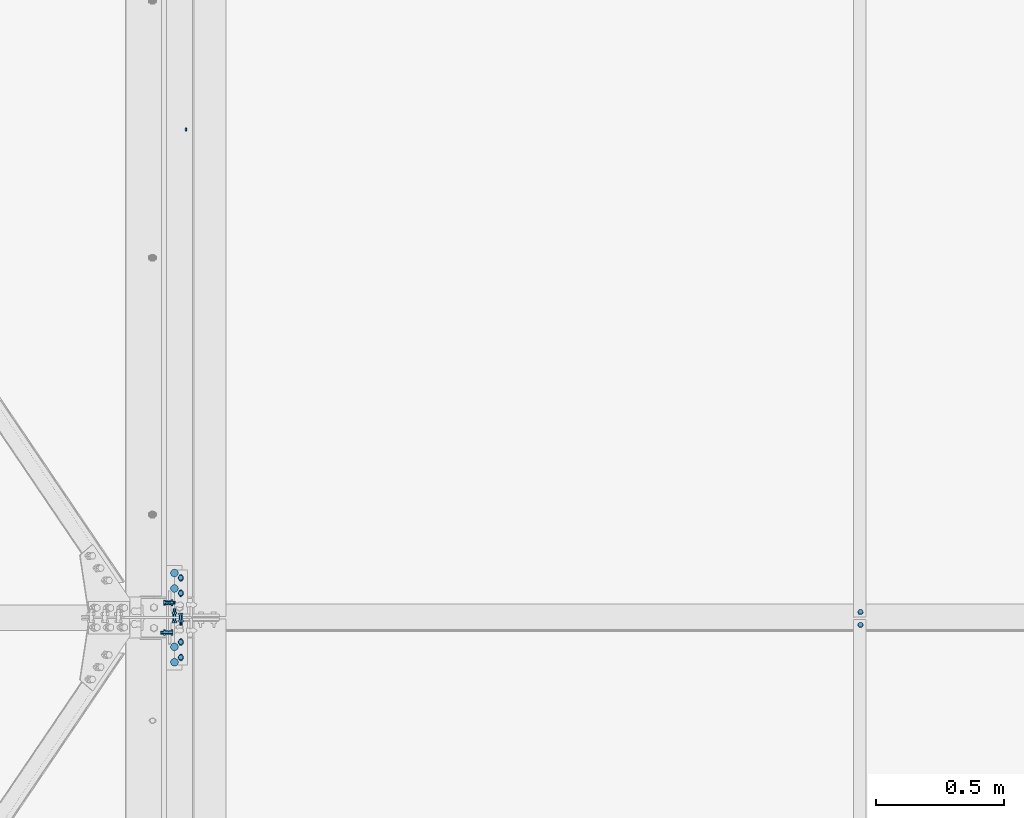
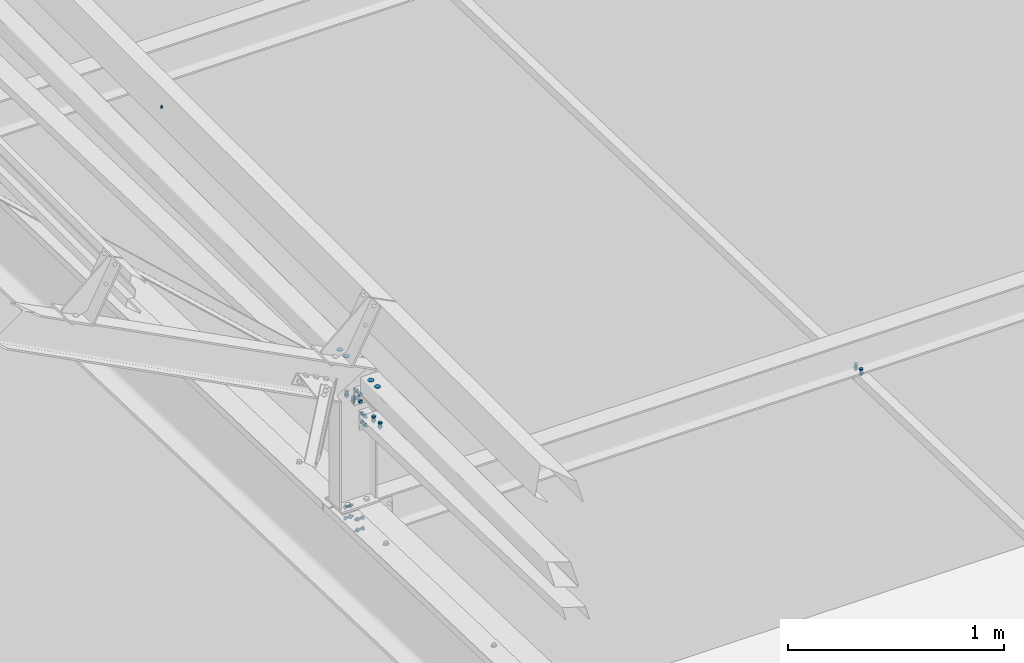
# One storey, part 292 of 362: 11 mechanical fasteners.
"""IFC2X3 building model written with IfcOpenShell, lengths in millimetres."""

import ifcopenshell
import ifcopenshell.guid

model = None  # the IFC model being written
_history = None  # IfcOwnerHistory: only IFC2X3 demands one
_inside = {}  # id of a spatial element -> (the spatial element, [elements in it])
_under = {}  # id of a project, library or spatial element -> (it, [spatial elements below it])
_declared = {}  # id of a project -> (the project, [libraries it declares])
_typed = {}  # id of a type object -> (the type object, [elements of that type])
_made_of = {}  # id of a material, layer set ... -> (it, [elements and type objects made of it])


def new_model(schema):
    """Start an empty IFC model of exactly this schema.

    Asked for "IFC4X3", IfcOpenShell would pick the latest addendum, in which some entities
    have other attributes; the version numbers below select the first issue.
    IFC2X3 requires an IfcOwnerHistory on every rooted entity: one is made here for all.
    """
    global model, _history
    if schema == "IFC4X3":
        model = ifcopenshell.file(schema_version=(4, 3, 0, 0))
    else:
        model = ifcopenshell.file(schema=schema)
    _inside.clear()
    _under.clear()
    _declared.clear()
    _typed.clear()
    _made_of.clear()
    _history = None
    if model.schema == "IFC2X3":
        org = make("IfcOrganization", Name="unknown")
        user = make(
            "IfcPersonAndOrganization",
            ThePerson=make("IfcPerson", FamilyName="unknown"),
            TheOrganization=org,
        )
        app = make(
            "IfcApplication",
            ApplicationDeveloper=org,
            Version="unknown",
            ApplicationFullName="unknown",
            ApplicationIdentifier="unknown",
        )
        _history = make(
            "IfcOwnerHistory",
            OwningUser=user,
            OwningApplication=app,
            ChangeAction="ADDED",
            CreationDate=0,
        )
    return model


def make(cls, **values):
    """One entity of the class cls with the attributes given. An attribute that is None is left unset."""
    return model.create_entity(
        cls, **{name: value for name, value in values.items() if value is not None}
    )


def rooted(cls, **values):
    """An entity with a GlobalId (a new one), such as an element, a storey or a relation."""
    return make(cls, GlobalId=ifcopenshell.guid.new(), OwnerHistory=_history, **values)


def si_unit(unit_type, name, prefix=None):
    """IfcSIUnit, for example si_unit("LENGTHUNIT", "METRE", prefix="MILLI")."""
    return make("IfcSIUnit", UnitType=unit_type, Prefix=prefix, Name=name)


def assignment(units):
    """IfcUnitAssignment: the units of a project."""
    return None if units is None else make("IfcUnitAssignment", Units=units)


def point(xyz):
    """IfcCartesianPoint."""
    return None if xyz is None else make("IfcCartesianPoint", Coordinates=xyz)


def direction(xyz):
    """IfcDirection."""
    return None if xyz is None else make("IfcDirection", DirectionRatios=xyz)


def frame(location, z_axis=None, x_axis=None):
    """IfcAxis2Placement3D, a coordinate frame: its origin and axes. An axis left out is left unset."""
    return make(
        "IfcAxis2Placement3D",
        Location=point(location),
        Axis=direction(z_axis),
        RefDirection=direction(x_axis),
    )


def frame_2d(location, x_axis=None):
    """IfcAxis2Placement2D, a coordinate frame in the plane: its origin and x axis."""
    return make(
        "IfcAxis2Placement2D", Location=point(location), RefDirection=direction(x_axis)
    )


def origin_with_axes():
    """The frame at (0, 0, 0) with the z axis (0, 0, 1) and the x axis (1, 0, 0) written out."""
    return frame((0.0, 0.0, 0.0), z_axis=(0.0, 0.0, 1.0), x_axis=(1.0, 0.0, 0.0))


def origin_2d_with_axis():
    """The frame at (0, 0) in the plane with the x axis (1, 0) written out."""
    return frame_2d((0.0, 0.0), x_axis=(1.0, 0.0))


def place(relative_to, where):
    """IfcLocalPlacement: puts the frame where relative to a parent placement (None: the world)."""
    return make(
        "IfcLocalPlacement", PlacementRelTo=relative_to, RelativePlacement=where
    )


def context(
    kind, dimensions, precision=None, world=None, true_north=None, identifier=None
):
    """IfcGeometricRepresentationContext, for example the 3D "Model" context."""
    return make(
        "IfcGeometricRepresentationContext",
        ContextIdentifier=identifier,
        ContextType=kind,
        CoordinateSpaceDimension=dimensions,
        Precision=precision,
        WorldCoordinateSystem=world,
        TrueNorth=true_north,
    )


def subcontext(parent, identifier, kind, view, scale=None):
    """IfcGeometricRepresentationSubContext, for example "Body" below "Model"."""
    return make(
        "IfcGeometricRepresentationSubContext",
        ContextIdentifier=identifier,
        ContextType=kind,
        ParentContext=parent,
        TargetScale=scale,
        TargetView=view,
    )


def project(units=None, contexts=None):
    """IfcProject with its units and contexts."""
    return rooted(
        "IfcProject",
        Name="project",
        RepresentationContexts=contexts,
        UnitsInContext=assignment(units),
    )


def spatial(cls, under=None, at=None, **own):
    """A site, building, storey or space (cls), placed at a placement, below another one or the project."""
    s = rooted(cls, ObjectPlacement=at, **own)
    if under is not None:
        _under.setdefault(under.id(), (under, []))[1].append(s)
    return s


def polyline(points):
    """IfcPolyline through the points."""
    return make("IfcPolyline", Points=[point(p) for p in points])


def circle_curve(where, radius):
    """IfcCircle in the frame where."""
    return make("IfcCircle", Position=where, Radius=radius)


def parameter(value):
    """IfcParameterValue: where a trimmed curve begins or ends, as a parameter of its basis curve."""
    return model.create_entity("IfcParameterValue", value)


def trimmed(basis, trim1, trim2, sense, master):
    """IfcTrimmedCurve: the piece of a basis curve between two trims."""
    return make(
        "IfcTrimmedCurve",
        BasisCurve=basis,
        Trim1=trim1,
        Trim2=trim2,
        SenseAgreement=sense,
        MasterRepresentation=master,
    )


def segment(curve, same_sense, transition):
    """IfcCompositeCurveSegment."""
    return make(
        "IfcCompositeCurveSegment",
        Transition=transition,
        SameSense=same_sense,
        ParentCurve=curve,
    )


def composite_curve(segments, self_intersect=None):
    """IfcCompositeCurve: segments joined end to end."""
    return make("IfcCompositeCurve", Segments=segments, SelfIntersect=self_intersect)


def profile(cls, at=None, kind="AREA", **sizes):
    """A parametric profile (cls). Its sizes go by their IFC names, for example OverallWidth=200.0."""
    return make(cls, ProfileType=kind, Position=at, **sizes)


def circle(**sizes):
    """IfcCircleProfileDef."""
    return profile("IfcCircleProfileDef", **sizes)


def outline(outer, holes=None, kind="AREA"):
    """IfcArbitraryClosedProfileDef: a profile drawn as a closed curve; with holes, ...WithVoids."""
    if holes is None:
        return make("IfcArbitraryClosedProfileDef", ProfileType=kind, OuterCurve=outer)
    return make(
        "IfcArbitraryProfileDefWithVoids",
        ProfileType=kind,
        OuterCurve=outer,
        InnerCurves=holes,
    )


def extrude(swept, where, along, depth):
    """IfcExtrudedAreaSolid: the profile swept, set in the frame where, extruded along a direction by depth."""
    return make(
        "IfcExtrudedAreaSolid",
        SweptArea=swept,
        Position=where,
        ExtrudedDirection=direction(along),
        Depth=depth,
    )


def shape(context_of_items, identifier, shape_type, items):
    """IfcShapeRepresentation: the items that make up one representation, for example the "Body"."""
    return make(
        "IfcShapeRepresentation",
        ContextOfItems=context_of_items,
        RepresentationIdentifier=identifier,
        RepresentationType=shape_type,
        Items=items,
    )


def source(mapping_origin, context_of_items, identifier, shape_type, items):
    """IfcRepresentationMap: a shape defined once, which mapped items show again and again."""
    return make(
        "IfcRepresentationMap",
        MappingOrigin=mapping_origin,
        MappedRepresentation=shape(context_of_items, identifier, shape_type, items),
    )


def transform(
    local_origin,
    x_axis=None,
    y_axis=None,
    z_axis=None,
    scale=None,
    scale2=None,
    scale3=None,
    uniform=True,
):
    """IfcCartesianTransformationOperator3D, or its non-uniform kind. x_axis, y_axis, z_axis: its Axis1, 2, 3."""
    if uniform:
        return make(
            "IfcCartesianTransformationOperator3D",
            Axis1=direction(x_axis),
            Axis2=direction(y_axis),
            LocalOrigin=point(local_origin),
            Scale=scale,
            Axis3=direction(z_axis),
        )
    return make(
        "IfcCartesianTransformationOperator3DnonUniform",
        Axis1=direction(x_axis),
        Axis2=direction(y_axis),
        LocalOrigin=point(local_origin),
        Scale=scale,
        Axis3=direction(z_axis),
        Scale2=scale2,
        Scale3=scale3,
    )


def mapped(mapping_source, mapping_target):
    """IfcMappedItem: shows the shape of a source again, moved by a transform."""
    return make(
        "IfcMappedItem", MappingSource=mapping_source, MappingTarget=mapping_target
    )


def material(Name=None, Category=None):
    """IfcMaterial."""
    return make("IfcMaterial", Name=Name, Category=Category)


def made_of(thing, what):
    """Note that an element or type object is made of a material, layer set ...; save() writes the relation."""
    if what is not None:
        _made_of.setdefault(what.id(), (what, []))[1].append(thing)
    return thing


def type_object(cls, material=None, **own):
    """A type object (cls), such as IfcWallType, which elements share."""
    return made_of(rooted(cls, **own), material)


def element(
    cls,
    number,
    at=None,
    inside=None,
    cuts=None,
    type_object=None,
    material=None,
    context=None,
    identifier="Body",
    shape_type=None,
    held_by="IfcProductDefinitionShape",
    body=None,
    shapes=None,
    **own,
):
    """One element of the class cls, such as IfcWall. Its Tag is "e" and its number.

    at: its placement. inside: the storey or other place that contains it. cuts: it is an
    opening in that element (IfcRelVoidsElement). A single representation is given by context,
    identifier, shape_type and body (its items); several are given by shapes. held_by: the class
    of the entity that holds the representations. save() writes the other relations.
    """
    e = rooted(cls, Tag="e%d" % number, ObjectPlacement=at, **own)
    if body is not None:
        shapes = [shape(context, identifier, shape_type, body)]
    if shapes is not None:
        e.Representation = make(held_by, Representations=shapes)
    if inside is not None:
        _inside.setdefault(inside.id(), (inside, []))[1].append(e)
    if cuts is not None:
        rooted(
            "IfcRelVoidsElement", RelatingBuildingElement=cuts, RelatedOpeningElement=e
        )
    if type_object is not None:
        _typed.setdefault(type_object.id(), (type_object, []))[1].append(e)
    return made_of(e, material)


def aggregate(whole, parts):
    """IfcRelAggregates: a whole, such as a stair, and the parts it consists of."""
    return rooted("IfcRelAggregates", RelatingObject=whole, RelatedObjects=parts)


def save(model, path):
    """Write the relations noted so far, then the file.

    IfcRelAggregates (storeys below a building ...), IfcRelContainedInSpatialStructure (elements
    in a storey), IfcRelDefinesByType, IfcRelAssociatesMaterial and IfcRelDeclares: one each for
    every whole, place, type object, material and project.
    """
    for whole, parts in _under.values():
        aggregate(whole, parts)
    for where, things in _inside.values():
        rooted(
            "IfcRelContainedInSpatialStructure",
            RelatedElements=things,
            RelatingStructure=where,
        )
    for kind, things in _typed.values():
        rooted("IfcRelDefinesByType", RelatedObjects=things, RelatingType=kind)
    for what, things in _made_of.values():
        rooted("IfcRelAssociatesMaterial", RelatedObjects=things, RelatingMaterial=what)
    for by, libraries in _declared.values():
        rooted("IfcRelDeclares", RelatingContext=by, RelatedDefinitions=libraries)
    model.write(path)


model = new_model("IFC2X3")

# Units and contexts
model_context = context("Model", 3, precision=1e-05, world=origin_with_axes())
body_context = subcontext(model_context, "Body", "Model", "MODEL_VIEW")
ifc_project = project(units=[si_unit("LENGTHUNIT", "METRE", prefix="MILLI"), si_unit("AREAUNIT", "SQUARE_METRE"), si_unit("VOLUMEUNIT", "CUBIC_METRE"), si_unit("MASSUNIT", "GRAM", prefix="KILO"), si_unit("TIMEUNIT", "SECOND"), si_unit("PLANEANGLEUNIT", "RADIAN"), si_unit("SOLIDANGLEUNIT", "STERADIAN"), si_unit("THERMODYNAMICTEMPERATUREUNIT", "DEGREE_CELSIUS"), si_unit("LUMINOUSINTENSITYUNIT", "LUMEN")], contexts=[model_context])

# Site, building, storey
site_placement = place(None, origin_with_axes())
site = spatial("IfcSite", under=ifc_project, at=site_placement, Name="Undefined", CompositionType="ELEMENT")
building_placement = place(site_placement, origin_with_axes())
building = spatial("IfcBuilding", under=site, at=building_placement, Name="Undefined", CompositionType="ELEMENT")
storey_placement = place(building_placement, origin_with_axes())
storey = spatial("IfcBuildingStorey", under=building, at=storey_placement, Name="Undefined", CompositionType="ELEMENT", Elevation=0.0)

# Mechanical fasteners
ifc_material_1 = material(Name="6.8")
mechanical_fastener_type = type_object("IfcMechanicalFastenerType", Name="Bolt assembly")
shared_shape_1 = source(origin_with_axes(), body_context, "Body", "SweptSolid", [
    extrude(circle(Radius=7.0, at=origin_2d_with_axis()), frame((0.0, 0.0, 0.0), z_axis=(0.0, 1.0, 0.0), x_axis=(1.0, 0.0, 0.0)), (0.0, 0.0, 1.0), 3.1),
])
mechanical_fastener_1_placement = place(storey_placement, frame((28953.4915880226, 9500.00002040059, 8856.57208676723), z_axis=(0.0, -1.0, 0.0), x_axis=(-0.460093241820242, 0.0, -0.887870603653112)))
element("IfcMechanicalFastener", 1, at=mechanical_fastener_1_placement, inside=storey, type_object=mechanical_fastener_type, material=ifc_material_1, Name="Bolt assembly", NominalDiameter=12.0, NominalLength=3.0, context=body_context, shape_type="MappedRepresentation", body=[
    mapped(shared_shape_1, transform((0.0, 0.0, 0.0))),
])
shared_shape_2 = source(origin_with_axes(), body_context, "Body", "SweptSolid", [
    extrude(circle(Radius=15.0, at=origin_2d_with_axis()), frame((0.0, 0.0, 0.0), z_axis=(0.0, 1.0, 0.0), x_axis=(1.0, 0.0, 0.0)), (0.0, 0.0, 1.0), 4.1),
])
for number, where, z_axis, x_axis, name in (
    (2, (28910.0, 7773.5, 8550.0), (1.0, 0.0, 0.0), (0.0, -1.0, 0.0), "Bolt assembly"),
    (3, (28910.0, 7426.5, 8550.0), (-1.0, 0.0, 0.0), (0.0, 1.0, 0.0), "Bolt assembly"),
):
    element("IfcMechanicalFastener", number, at=place(storey_placement, frame(where, z_axis=z_axis, x_axis=x_axis)), inside=storey, type_object=mechanical_fastener_type, material=ifc_material_1, Name=name, NominalDiameter=30.0, NominalLength=4.0, context=body_context, shape_type="MappedRepresentation", body=[
        mapped(shared_shape_2, transform((0.0, 0.0, 0.0))),
        mapped(shared_shape_2, transform((60.0, 0.0, 0.0))),
    ])
ifc_material_2 = material(Name="8.8-SB-ZINGUE")
shared_shape_3 = source(origin_with_axes(), body_context, "Body", "SweptSolid", [
    extrude(circle(Radius=7.0, at=origin_2d_with_axis()), frame((0.0, -8.39750152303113, 0.0), z_axis=(0.0, 1.0, 0.0), x_axis=(1.0, 0.0, 0.0)), (0.0, 0.0, 1.0), 8.5),
    extrude(circle(Radius=7.0, at=origin_2d_with_axis()), frame((0.0, -0.100011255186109, 0.0), z_axis=(0.0, 1.0, 0.0), x_axis=(1.0, 0.0, 0.0)), (0.0, 0.0, 1.0), 5.1),
    extrude(outline(polyline([(10.39230484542, 0.0), (5.19615242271, 9.00000000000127), (-5.19615242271, 9.00000000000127), (-10.39230484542, 0.0), (-5.19615242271, -9.00000000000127), (5.19615242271, -9.00000000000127), (10.39230484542, 0.0)])), frame((0.0, -16.4175015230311, 0.0), z_axis=(0.0, 1.0, 0.0), x_axis=(1.0, 0.0, 0.0)), (0.0, 0.0, 1.0), 7.92),
    extrude(circle(Radius=6.0, at=origin_2d_with_axis()), frame((0.0, -8.49750152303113, 0.0), z_axis=(0.0, 1.0, 0.0), x_axis=(1.0, 0.0, 0.0)), (0.0, 0.0, 1.0), 30.0),
    extrude(outline(polyline([(11.5008173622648, 0.0), (5.7504086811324, 9.96000000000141), (-5.7504086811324, 9.96000000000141), (-11.5008173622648, 0.0), (-5.7504086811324, -9.96000000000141), (5.7504086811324, -9.96000000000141), (11.5008173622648, 0.0)])), frame((0.0, 5.0, 0.0), z_axis=(0.0, 1.0, 0.0), x_axis=(1.0, 0.0, 0.0)), (0.0, 0.0, 1.0), 7.92),
])
for number, where, z_axis, x_axis, name in (
    (4, (31580.0000126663, 7621.85063591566, 7610.37835678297), (0.0, -0.999506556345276, 0.031410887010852), (-1.0, 0.0, 0.0), "Bolt assembly"),
    (5, (31580.0000126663, 7571.8713229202, 7611.94904294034), (0.0, -0.999506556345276, 0.031410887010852), (-1.0, 0.0, 0.0), "Bolt assembly"),
):
    element("IfcMechanicalFastener", number, at=place(storey_placement, frame(where, z_axis=z_axis, x_axis=x_axis)), inside=storey, type_object=mechanical_fastener_type, material=ifc_material_2, Name=name, NominalDiameter=12.0, NominalLength=30.0, context=body_context, shape_type="MappedRepresentation", body=[
        mapped(shared_shape_3, transform((0.0, 0.0, 0.0))),
    ])
shared_shape_4 = source(origin_with_axes(), body_context, "Body", "SweptSolid", [
    extrude(circle(Radius=7.0, at=origin_2d_with_axis()), frame((0.0, -2.7999999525, 0.0), z_axis=(0.0, 1.0, 0.0), x_axis=(1.0, 0.0, 0.0)), (0.0, 0.0, 1.0), 5.6),
    extrude(circle(Radius=7.0, at=origin_2d_with_axis()), frame((0.0, -9.40000000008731, 0.0), z_axis=(0.0, 1.0, 0.0), x_axis=(1.0, 0.0, 0.0)), (0.0, 0.0, 1.0), 6.0),
    extrude(circle(Radius=7.0, at=origin_2d_with_axis()), frame((0.0, 3.40000111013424, 0.0), z_axis=(0.0, 1.0, 0.0), x_axis=(1.0, 0.0, 0.0)), (0.0, 0.0, 1.0), 6.1),
    extrude(outline(polyline([(10.39230484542, 0.0), (5.19615242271, 9.00000000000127), (-5.19615242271, 9.00000000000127), (-10.39230484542, 0.0), (-5.19615242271, -9.00000000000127), (5.19615242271, -9.00000000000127), (10.39230484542, 0.0)])), frame((0.0, -17.4200000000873, 0.0), z_axis=(0.0, 1.0, 0.0), x_axis=(1.0, 0.0, 0.0)), (0.0, 0.0, 1.0), 7.92),
    extrude(circle(Radius=6.0, at=origin_2d_with_axis()), frame((0.0, -9.50000000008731, 0.0), z_axis=(0.0, 1.0, 0.0), x_axis=(1.0, 0.0, 0.0)), (0.0, 0.0, 1.0), 40.0),
    extrude(outline(polyline([(11.5008173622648, 0.0), (5.7504086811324, 9.96000000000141), (-5.7504086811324, 9.96000000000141), (-11.5008173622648, 0.0), (-5.7504086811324, -9.96000000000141), (5.7504086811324, -9.96000000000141), (11.5008173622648, 0.0)])), frame((0.0, 9.50000815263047, 0.0), z_axis=(0.0, 1.0, 0.0), x_axis=(1.0, 0.0, 0.0)), (0.0, 0.0, 1.0), 7.92),
])
mechanical_fastener_2_placement = place(storey_placement, frame((28935.0000000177, 7600.0, 8227.43274813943), z_axis=(1.0, 0.0, 0.0), x_axis=(0.0, 0.0, 1.0)))
element("IfcMechanicalFastener", 6, at=mechanical_fastener_2_placement, inside=storey, type_object=mechanical_fastener_type, material=ifc_material_2, Name="Bolt assembly", NominalDiameter=12.0, NominalLength=40.0, context=body_context, shape_type="MappedRepresentation", body=[
    mapped(shared_shape_4, transform((0.0, 0.0, 0.0))),
    mapped(shared_shape_4, transform((49.9999999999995, 0.0, -3.63797880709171e-12))),
])
shared_shape_5 = source(origin_with_axes(), body_context, "Body", "SweptSolid", [
    extrude(circle(Radius=7.0, at=origin_2d_with_axis()), frame((0.0, -3.89999843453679, 0.0), z_axis=(0.0, 1.0, 0.0), x_axis=(1.0, 0.0, 0.0)), (0.0, 0.0, 1.0), 4.0),
    extrude(outline(composite_curve([segment(polyline([(-7.0, 7.0), (7.0, 7.0)]), True, "CONTINUOUS"), segment(trimmed(circle_curve(frame_2d((7.0, 0.0), x_axis=(0.0, 1.0)), 7.0), [parameter(0.0)], [parameter(3.14159265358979)], False, "PARAMETER"), True, "CONTINUOUS"), segment(polyline([(7.0, -7.0), (-7.0, -7.0)]), True, "CONTINUOUS"), segment(trimmed(circle_curve(frame_2d((-7.0, 0.0), x_axis=(0.0, -1.0)), 7.0), [parameter(0.0)], [parameter(3.14159265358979)], False, "PARAMETER"), True, "DISCONTINUOUS")], self_intersect=False)), frame((0.0, -0.100011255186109, 0.0), z_axis=(0.0, 1.0, 0.0), x_axis=(1.0, 0.0, 0.0)), (0.0, 0.0, 1.0), 6.1),
    extrude(outline(polyline([(10.39230484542, 0.0), (5.19615242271, 9.00000000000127), (-5.19615242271, 9.00000000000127), (-10.39230484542, 0.0), (-5.19615242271, -9.00000000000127), (5.19615242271, -9.00000000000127), (10.39230484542, 0.0)])), frame((0.0, -11.9199984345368, 0.0), z_axis=(0.0, 1.0, 0.0), x_axis=(1.0, 0.0, 0.0)), (0.0, 0.0, 1.0), 7.92),
    extrude(circle(Radius=6.0, at=origin_2d_with_axis()), frame((0.0, -3.99999923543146, 0.0), z_axis=(0.0, 1.0, 0.0), x_axis=(1.0, 0.0, 0.0)), (0.0, 0.0, 1.0), 30.0),
    extrude(circle(Radius=10.8, at=origin_2d_with_axis()), frame((0.0, 6.0, 0.0), z_axis=(0.0, 1.0, 0.0), x_axis=(1.0, 0.0, 0.0)), (0.0, 0.0, 1.0), 3.96),
    extrude(outline(polyline([(11.5008173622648, 0.0), (5.7504086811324, 9.96000000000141), (-5.7504086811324, 9.96000000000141), (-11.5008173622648, 0.0), (-5.7504086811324, -9.96000000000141), (5.7504086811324, -9.96000000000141), (11.5008173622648, 0.0)])), frame((0.0, 9.9600084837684, 0.0), z_axis=(0.0, 1.0, 0.0), x_axis=(1.0, 0.0, 0.0)), (0.0, 0.0, 1.0), 7.92),
])
mechanical_fastener_3_placement = place(storey_placement, frame((28935.0, 7754.95557192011, 8307.56250616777), z_axis=(1.0, 0.0, 0.0), x_axis=(0.0, -0.999506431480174, 0.0314148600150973)))
element("IfcMechanicalFastener", 7, at=mechanical_fastener_3_placement, inside=storey, type_object=mechanical_fastener_type, material=ifc_material_2, Name="Bolt assembly", NominalDiameter=12.0, NominalLength=30.0, context=body_context, shape_type="MappedRepresentation", body=[
    mapped(shared_shape_5, transform((0.0, 0.0, 0.0))),
    mapped(shared_shape_5, transform((60.0, 0.0, 0.0))),
])
shared_shape_6 = source(origin_with_axes(), body_context, "Body", "SweptSolid", [
    extrude(circle(Radius=7.0, at=origin_2d_with_axis()), frame((0.0, -3.89999843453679, 0.0), z_axis=(0.0, 1.0, 0.0), x_axis=(1.0, 0.0, 0.0)), (0.0, 0.0, 1.0), 4.0),
    extrude(outline(composite_curve([segment(polyline([(-7.0, 7.0), (7.0, 7.0)]), True, "CONTINUOUS"), segment(trimmed(circle_curve(frame_2d((7.0, 0.0), x_axis=(0.0, 1.0)), 7.0), [parameter(0.0)], [parameter(3.14159265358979)], False, "PARAMETER"), True, "CONTINUOUS"), segment(polyline([(7.0, -7.0), (-7.0, -7.0)]), True, "CONTINUOUS"), segment(trimmed(circle_curve(frame_2d((-7.0, 0.0), x_axis=(0.0, -1.0)), 7.0), [parameter(0.0)], [parameter(3.14159265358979)], False, "PARAMETER"), True, "DISCONTINUOUS")], self_intersect=False)), frame((0.0, -0.100011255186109, 0.0), z_axis=(0.0, 1.0, 0.0), x_axis=(1.0, 0.0, 0.0)), (0.0, 0.0, 1.0), 6.1),
    extrude(outline(polyline([(10.39230484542, 0.0), (5.19615242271, 9.00000000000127), (-5.19615242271, 9.00000000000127), (-10.39230484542, 0.0), (-5.19615242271, -9.00000000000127), (5.19615242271, -9.00000000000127), (10.39230484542, 0.0)])), frame((0.0, -11.9199984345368, 0.0), z_axis=(0.0, 1.0, 0.0), x_axis=(1.0, 0.0, 0.0)), (0.0, 0.0, 1.0), 7.92),
    extrude(circle(Radius=6.0, at=origin_2d_with_axis()), frame((0.0, -3.99999923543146, 0.0), z_axis=(0.0, 1.0, 0.0), x_axis=(1.0, 0.0, 0.0)), (0.0, 0.0, 1.0), 30.0),
    extrude(circle(Radius=10.8, at=origin_2d_with_axis()), frame((0.0, 6.0, 0.0), z_axis=(0.0, 1.0, 0.0), x_axis=(1.0, 0.0, 0.0)), (0.0, 0.0, 1.0), 3.96),
    extrude(outline(polyline([(11.5008173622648, 0.0), (5.7504086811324, 9.96000000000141), (-5.7504086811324, 9.96000000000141), (-11.5008173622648, 0.0), (-5.7504086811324, -9.96000000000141), (5.7504086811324, -9.96000000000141), (11.5008173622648, 0.0)])), frame((0.0, 9.9600084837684, 0.0), z_axis=(0.0, 1.0, 0.0), x_axis=(1.0, 0.0, 0.0)), (0.0, 0.0, 1.0), 7.92),
])
mechanical_fastener_4_placement = place(storey_placement, frame((28935.0, 7445.0444201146, 8317.30299256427), z_axis=(-1.0, 0.0, 0.0), x_axis=(0.0, 0.99950644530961, -0.0314144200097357)))
element("IfcMechanicalFastener", 8, at=mechanical_fastener_4_placement, inside=storey, type_object=mechanical_fastener_type, material=ifc_material_2, Name="Bolt assembly", NominalDiameter=12.0, NominalLength=30.0, context=body_context, shape_type="MappedRepresentation", body=[
    mapped(shared_shape_6, transform((0.0, 0.0, 0.0))),
    mapped(shared_shape_6, transform((60.0, 0.0, 0.0))),
])
shared_shape_7 = source(origin_with_axes(), body_context, "Body", "SweptSolid", [
    extrude(circle(Radius=7.0, at=origin_2d_with_axis()), frame((0.0, -2.80010483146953, 0.0), z_axis=(0.0, 1.0, 0.0), x_axis=(1.0, 0.0, 0.0)), (0.0, 0.0, 1.0), 5.6),
    extrude(circle(Radius=7.0, at=origin_2d_with_axis()), frame((0.0, 3.3998951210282, 0.0), z_axis=(0.0, 1.0, 0.0), x_axis=(1.0, 0.0, 0.0)), (0.0, 0.0, 1.0), 10.1),
    extrude(circle(Radius=7.0, at=origin_2d_with_axis()), frame((0.0, -13.4001048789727, 0.0), z_axis=(0.0, 1.0, 0.0), x_axis=(1.0, 0.0, 0.0)), (0.0, 0.0, 1.0), 10.0),
    extrude(outline(polyline([(10.39230484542, 0.0), (5.19615242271, 9.00000000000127), (-5.19615242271, 9.00000000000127), (-10.39230484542, 0.0), (-5.19615242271, -9.00000000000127), (5.19615242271, -9.00000000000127), (10.39230484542, 0.0)])), frame((0.0, -21.4201048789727, 0.0), z_axis=(0.0, 1.0, 0.0), x_axis=(1.0, 0.0, 0.0)), (0.0, 0.0, 1.0), 7.92),
    extrude(circle(Radius=6.0, at=origin_2d_with_axis()), frame((0.0, -13.5000574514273, 0.0), z_axis=(0.0, 1.0, 0.0), x_axis=(1.0, 0.0, 0.0)), (0.0, 0.0, 1.0), 50.0),
    extrude(outline(polyline([(11.5008173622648, 0.0), (5.7504086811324, 9.96000000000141), (-5.7504086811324, 9.96000000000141), (-11.5008173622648, 0.0), (-5.7504086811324, -9.96000000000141), (5.7504086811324, -9.96000000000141), (11.5008173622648, 0.0)])), frame((0.0, 13.4998951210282, 0.0), z_axis=(0.0, 1.0, 0.0), x_axis=(1.0, 0.0, 0.0)), (0.0, 0.0, 1.0), 7.92),
])
mechanical_fastener_5_placement = place(storey_placement, frame((28910.0, 7600.00010487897, 8370.0), z_axis=(-1.0, 0.0, 0.0), x_axis=(0.0, 0.0, 1.0)))
element("IfcMechanicalFastener", 9, at=mechanical_fastener_5_placement, inside=storey, type_object=mechanical_fastener_type, material=ifc_material_2, Name="Bolt assembly", NominalDiameter=12.0, NominalLength=50.0, context=body_context, shape_type="MappedRepresentation", body=[
    mapped(shared_shape_7, transform((0.0, 0.0, 0.0))),
    mapped(shared_shape_7, transform((40.0, 0.0, 0.0))),
])
shared_shape_8 = source(origin_with_axes(), body_context, "Body", "SweptSolid", [
    extrude(circle(Radius=7.0, at=origin_2d_with_axis()), frame((0.0, -5.45000018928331, 0.0), z_axis=(0.0, 1.0, 0.0), x_axis=(1.0, 0.0, 0.0)), (0.0, 0.0, 1.0), 11.1),
    extrude(circle(Radius=7.0, at=origin_2d_with_axis()), frame((0.0, 5.90002706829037, 0.0), z_axis=(0.0, 1.0, 0.0), x_axis=(1.0, 0.0, 0.0)), (0.0, 0.0, 1.0), 10.1),
    extrude(outline(polyline([(10.39230484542, 0.0), (5.19615242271, 9.00000000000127), (-5.19615242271, 9.00000000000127), (-10.39230484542, 0.0), (-5.19615242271, -9.00000000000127), (5.19615242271, -9.00000000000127), (10.39230484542, 0.0)])), frame((0.0, -13.4700001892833, 0.0), z_axis=(0.0, 1.0, 0.0), x_axis=(1.0, 0.0, 0.0)), (0.0, 0.0, 1.0), 7.92),
    extrude(circle(Radius=6.0, at=origin_2d_with_axis()), frame((0.0, -5.55000018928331, 0.0), z_axis=(0.0, 1.0, 0.0), x_axis=(1.0, 0.0, 0.0)), (0.0, 0.0, 1.0), 40.0),
    extrude(outline(polyline([(11.5008173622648, 0.0), (5.7504086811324, 9.96000000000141), (-5.7504086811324, 9.96000000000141), (-11.5008173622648, 0.0), (-5.7504086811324, -9.96000000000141), (5.7504086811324, -9.96000000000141), (11.5008173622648, 0.0)])), frame((0.0, 15.9999999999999, 0.0), z_axis=(0.0, 1.0, 0.0), x_axis=(1.0, 0.0, 0.0)), (0.0, 0.0, 1.0), 7.92),
])
mechanical_fastener_6_placement = place(storey_placement, frame((28880.0, 7657.97179636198, 7709.28959475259), z_axis=(7.58071938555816e-11, 0.0314107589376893, 0.999506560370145), x_axis=(0.0, -0.999506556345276, 0.031410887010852)))
element("IfcMechanicalFastener", 10, at=mechanical_fastener_6_placement, inside=storey, type_object=mechanical_fastener_type, material=ifc_material_2, Name="Bolt assembly", NominalDiameter=12.0, NominalLength=40.0, context=body_context, shape_type="MappedRepresentation", body=[
    mapped(shared_shape_8, transform((0.0, 0.0, -30.0))),
    mapped(shared_shape_8, transform((0.0, 0.0, 30.0))),
])
shared_shape_9 = source(origin_with_axes(), body_context, "Body", "SweptSolid", [
    extrude(circle(Radius=7.0, at=origin_2d_with_axis()), frame((0.0, -5.65000019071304, 0.0), z_axis=(0.0, 1.0, 0.0), x_axis=(1.0, 0.0, 0.0)), (0.0, 0.0, 1.0), 11.2),
    extrude(circle(Radius=7.0, at=origin_2d_with_axis()), frame((0.0, -15.9000004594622, 0.0), z_axis=(0.0, 1.0, 0.0), x_axis=(1.0, 0.0, 0.0)), (0.0, 0.0, 1.0), 10.0),
    extrude(outline(polyline([(10.39230484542, 0.0), (5.19615242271, 9.00000000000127), (-5.19615242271, 9.00000000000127), (-10.39230484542, 0.0), (-5.19615242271, -9.00000000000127), (5.19615242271, -9.00000000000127), (10.39230484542, 0.0)])), frame((0.0, -23.9200004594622, 0.0), z_axis=(0.0, 1.0, 0.0), x_axis=(1.0, 0.0, 0.0)), (0.0, 0.0, 1.0), 7.92),
    extrude(circle(Radius=6.0, at=origin_2d_with_axis()), frame((0.0, -16.0000004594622, 0.0), z_axis=(0.0, 1.0, 0.0), x_axis=(1.0, 0.0, 0.0)), (0.0, 0.0, 1.0), 40.0),
    extrude(outline(polyline([(11.5008173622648, 0.0), (5.7504086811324, 9.96000000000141), (-5.7504086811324, 9.96000000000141), (-11.5008173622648, 0.0), (-5.7504086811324, -9.96000000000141), (5.7504086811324, -9.96000000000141), (11.5008173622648, 0.0)])), frame((0.0, 5.55000018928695, 0.0), z_axis=(0.0, 1.0, 0.0), x_axis=(1.0, 0.0, 0.0)), (0.0, 0.0, 1.0), 7.92),
])
mechanical_fastener_7_placement = place(storey_placement, frame((28880.0, 7542.0281751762, 7712.93332312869), z_axis=(7.58071938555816e-11, 0.0314107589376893, 0.999506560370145), x_axis=(3.14103090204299e-11, 0.999506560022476, -0.0314107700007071)))
element("IfcMechanicalFastener", 11, at=mechanical_fastener_7_placement, inside=storey, type_object=mechanical_fastener_type, material=ifc_material_2, Name="Bolt assembly", NominalDiameter=12.0, NominalLength=40.0, context=body_context, shape_type="MappedRepresentation", body=[
    mapped(shared_shape_9, transform((0.0, 0.0, -30.0))),
    mapped(shared_shape_9, transform((0.0, 0.0, 30.0))),
])

save(model, "model.ifc")
